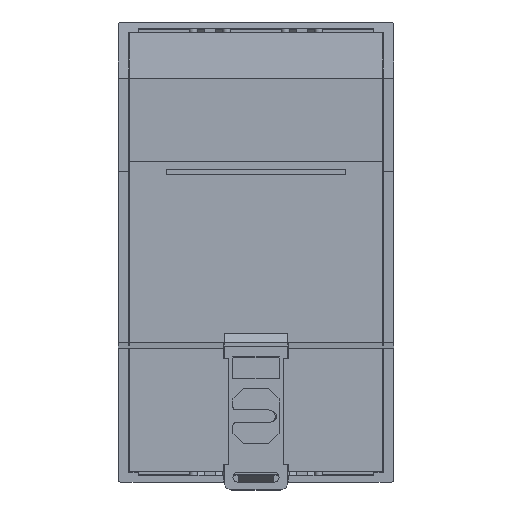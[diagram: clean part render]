
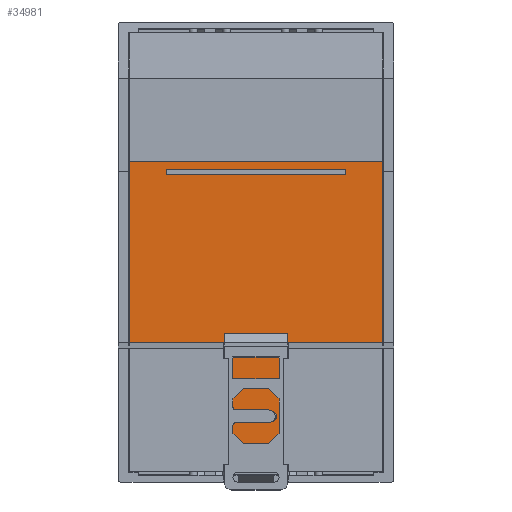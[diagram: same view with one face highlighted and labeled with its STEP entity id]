
A CAD part, top view. The second image highlights one B-rep face of the part: STEP entity #34981.
In plain terms, the highlighted planar face has unit normal (0, 0, 1).
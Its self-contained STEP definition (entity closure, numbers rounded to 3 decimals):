
#32917=DIRECTION('',(0.,1.,0.));
#32918=VECTOR('',#32917,35.5);
#32919=CARTESIAN_POINT('',(-24.8,-17.75,-1.));
#32920=LINE('',#32919,#32918);
#33017=DIRECTION('',(1.,0.,0.));
#33018=VECTOR('',#33017,12.8);
#33019=CARTESIAN_POINT('',(-6.4,-42.9,-1.));
#33020=LINE('',#33019,#33018);
#33137=DIRECTION('',(0.,1.,0.));
#33138=VECTOR('',#33137,35.5);
#33139=CARTESIAN_POINT('',(24.8,-17.75,-1.));
#33140=LINE('',#33139,#33138);
#33225=DIRECTION('',(0.,1.,0.));
#33226=VECTOR('',#33225,25.15);
#33227=CARTESIAN_POINT('',(6.4,-42.9,-1.));
#33228=LINE('',#33227,#33226);
#33265=DIRECTION('',(-1.,0.,0.));
#33266=VECTOR('',#33265,18.4);
#33267=CARTESIAN_POINT('',(24.8,-17.75,-1.));
#33268=LINE('',#33267,#33266);
#33269=DIRECTION('',(0.,1.,0.));
#33270=VECTOR('',#33269,25.15);
#33271=CARTESIAN_POINT('',(-6.4,-42.9,-1.));
#33272=LINE('',#33271,#33270);
#33273=DIRECTION('',(-1.,0.,0.));
#33274=VECTOR('',#33273,18.4);
#33275=CARTESIAN_POINT('',(-6.4,-17.75,-1.));
#33276=LINE('',#33275,#33274);
#33277=DIRECTION('',(1.,0.,0.));
#33278=VECTOR('',#33277,1.);
#33279=CARTESIAN_POINT('',(2.,-33.1,-1.));
#33280=LINE('',#33279,#33278);
#33281=CARTESIAN_POINT('',(3.,-32.1,-1.));
#33282=DIRECTION('',(0.,0.,1.));
#33283=DIRECTION('',(0.,-1.,0.));
#33284=AXIS2_PLACEMENT_3D('',#33281,#33282,#33283);
#33286=DIRECTION('',(-1.,0.,0.));
#33287=VECTOR('',#33286,1.);
#33288=CARTESIAN_POINT('',(3.,-31.1,-1.));
#33289=LINE('',#33288,#33287);
#33290=CARTESIAN_POINT('',(2.,-32.1,-1.));
#33291=DIRECTION('',(0.,0.,1.));
#33292=DIRECTION('',(0.,1.,0.));
#33293=AXIS2_PLACEMENT_3D('',#33290,#33291,#33292);
#33295=DIRECTION('',(0.,-1.,0.));
#33296=VECTOR('',#33295,1.);
#33297=CARTESIAN_POINT('',(-17.5,16.25,-1.));
#33298=LINE('',#33297,#33296);
#33299=DIRECTION('',(1.,0.,0.));
#33300=VECTOR('',#33299,35.);
#33301=CARTESIAN_POINT('',(-17.5,15.25,-1.));
#33302=LINE('',#33301,#33300);
#33303=DIRECTION('',(0.,1.,0.));
#33304=VECTOR('',#33303,1.);
#33305=CARTESIAN_POINT('',(17.5,15.25,-1.));
#33306=LINE('',#33305,#33304);
#33307=DIRECTION('',(-1.,0.,0.));
#33308=VECTOR('',#33307,35.);
#33309=CARTESIAN_POINT('',(17.5,16.25,-1.));
#33310=LINE('',#33309,#33308);
#33351=DIRECTION('',(-1.,0.,0.));
#33352=VECTOR('',#33351,49.6);
#33353=CARTESIAN_POINT('',(24.8,17.75,-1.));
#33354=LINE('',#33353,#33352);
#33958=CARTESIAN_POINT('',(-24.8,-17.75,-1.));
#33960=VERTEX_POINT('',#33958);
#33961=CARTESIAN_POINT('',(-24.8,17.75,-1.));
#33962=VERTEX_POINT('',#33961);
#33966=CARTESIAN_POINT('',(24.8,-17.75,-1.));
#33968=VERTEX_POINT('',#33966);
#33969=CARTESIAN_POINT('',(24.8,17.75,-1.));
#33970=VERTEX_POINT('',#33969);
#34005=CARTESIAN_POINT('',(-6.4,-42.9,-1.));
#34006=CARTESIAN_POINT('',(6.4,-42.9,-1.));
#34007=VERTEX_POINT('',#34005);
#34008=VERTEX_POINT('',#34006);
#34009=CARTESIAN_POINT('',(6.4,-17.75,-1.));
#34010=VERTEX_POINT('',#34009);
#34011=CARTESIAN_POINT('',(-6.4,-17.75,-1.));
#34012=VERTEX_POINT('',#34011);
#34045=CARTESIAN_POINT('',(2.,-33.1,-1.));
#34046=CARTESIAN_POINT('',(3.,-33.1,-1.));
#34047=VERTEX_POINT('',#34045);
#34048=VERTEX_POINT('',#34046);
#34049=CARTESIAN_POINT('',(3.,-31.1,-1.));
#34050=VERTEX_POINT('',#34049);
#34051=CARTESIAN_POINT('',(2.,-31.1,-1.));
#34052=VERTEX_POINT('',#34051);
#34085=CARTESIAN_POINT('',(-17.5,16.25,-1.));
#34086=CARTESIAN_POINT('',(-17.5,15.25,-1.));
#34087=VERTEX_POINT('',#34085);
#34088=VERTEX_POINT('',#34086);
#34089=CARTESIAN_POINT('',(17.5,15.25,-1.));
#34090=VERTEX_POINT('',#34089);
#34091=CARTESIAN_POINT('',(17.5,16.25,-1.));
#34092=VERTEX_POINT('',#34091);
#34944=CARTESIAN_POINT('',(29.76,-17.75,-1.));
#34945=DIRECTION('',(0.,0.,-1.));
#34946=DIRECTION('',(0.,1.,0.));
#34947=AXIS2_PLACEMENT_3D('',#34944,#34945,#34946);
#34948=PLANE('',#34947);
#34949=ORIENTED_EDGE('',*,*,#34850,.T.);
#34950=ORIENTED_EDGE('',*,*,#34882,.F.);
#34951=ORIENTED_EDGE('',*,*,#34569,.F.);
#34953=ORIENTED_EDGE('',*,*,#34952,.T.);
#34954=ORIENTED_EDGE('',*,*,#34866,.T.);
#34955=ORIENTED_EDGE('',*,*,#34332,.T.);
#34957=ORIENTED_EDGE('',*,*,#34956,.F.);
#34958=ORIENTED_EDGE('',*,*,#34677,.F.);
#34959=EDGE_LOOP('',(#34949,#34950,#34951,#34953,#34954,#34955,#34957,#34958));
#34960=FACE_OUTER_BOUND('',#34959,.F.);
#34962=ORIENTED_EDGE('',*,*,#34961,.T.);
#34964=ORIENTED_EDGE('',*,*,#34963,.T.);
#34966=ORIENTED_EDGE('',*,*,#34965,.T.);
#34968=ORIENTED_EDGE('',*,*,#34967,.T.);
#34969=EDGE_LOOP('',(#34962,#34964,#34966,#34968));
#34970=FACE_BOUND('',#34969,.F.);
#34972=ORIENTED_EDGE('',*,*,#34971,.T.);
#34974=ORIENTED_EDGE('',*,*,#34973,.T.);
#34976=ORIENTED_EDGE('',*,*,#34975,.T.);
#34978=ORIENTED_EDGE('',*,*,#34977,.T.);
#34979=EDGE_LOOP('',(#34972,#34974,#34976,#34978));
#34980=FACE_BOUND('',#34979,.F.);
#34981=ADVANCED_FACE('',(#34960,#34970,#34980),#34948,.F.);
#33285=CIRCLE('',#33284,1.);
#33294=CIRCLE('',#33293,1.);
#34332=EDGE_CURVE('',#33960,#33962,#32920,.T.);
#34569=EDGE_CURVE('',#34007,#34008,#33020,.T.);
#34677=EDGE_CURVE('',#33968,#33970,#33140,.T.);
#34850=EDGE_CURVE('',#33968,#34010,#33268,.T.);
#34866=EDGE_CURVE('',#34012,#33960,#33276,.T.);
#34882=EDGE_CURVE('',#34008,#34010,#33228,.T.);
#34952=EDGE_CURVE('',#34007,#34012,#33272,.T.);
#34956=EDGE_CURVE('',#33970,#33962,#33354,.T.);
#34961=EDGE_CURVE('',#34047,#34048,#33280,.T.);
#34963=EDGE_CURVE('',#34048,#34050,#33285,.T.);
#34965=EDGE_CURVE('',#34050,#34052,#33289,.T.);
#34967=EDGE_CURVE('',#34052,#34047,#33294,.T.);
#34971=EDGE_CURVE('',#34087,#34088,#33298,.T.);
#34973=EDGE_CURVE('',#34088,#34090,#33302,.T.);
#34975=EDGE_CURVE('',#34090,#34092,#33306,.T.);
#34977=EDGE_CURVE('',#34092,#34087,#33310,.T.);
